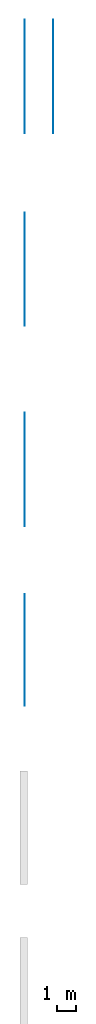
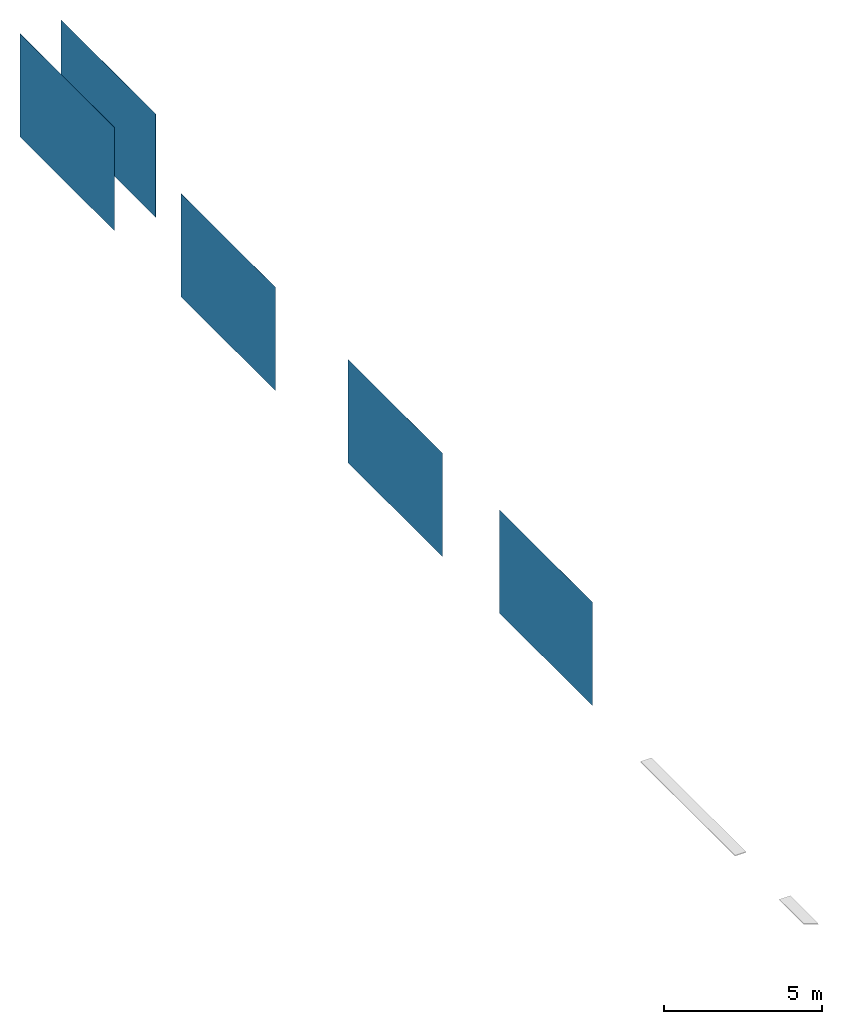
# One storey, part 1 of 2: 5 walls.
"""IFC2X3 building model written with IfcOpenShell, lengths in millimetres."""

from ifc_helpers import new_model, entity, si_unit, converted_unit, derived_unit, direction, frame, frame_2d, origin, place, context, subcontext, project, spatial, rectangle, extrude, material, layer, layer_set, layer_usage, type_object, element, save


model = new_model("IFC2X3")

# Units and contexts
model_context = context("Model", 3, precision=0.01, world=origin(), true_north=direction((6.12303176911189e-17, 1.0)))
context_of_model = context(None, 3, precision=0.01, world=origin(), true_north=direction((6.12303176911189e-17, 1.0)))
body_context = subcontext(model_context, "Body", "Model", "MODEL_VIEW")
ifc_project = project(units=[si_unit("LENGTHUNIT", "METRE", prefix="MILLI"), si_unit("AREAUNIT", "SQUARE_METRE"), si_unit("VOLUMEUNIT", "CUBIC_METRE"), converted_unit("PLANEANGLEUNIT", "DEGREE", entity("IfcRatioMeasure", 0.0174532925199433), si_unit("PLANEANGLEUNIT", "RADIAN"), dimensions=[0, 0, 0, 0, 0, 0, 0]), si_unit("MASSUNIT", "GRAM", prefix="KILO"), si_unit("TIMEUNIT", "SECOND"), si_unit("FREQUENCYUNIT", "HERTZ"), si_unit("THERMODYNAMICTEMPERATUREUNIT", "DEGREE_CELSIUS"), derived_unit("THERMALTRANSMITTANCEUNIT", [(si_unit("MASSUNIT", "GRAM", prefix="KILO"), 1), (si_unit("THERMODYNAMICTEMPERATUREUNIT", "KELVIN"), -1), (si_unit("TIMEUNIT", "SECOND"), -3)]), derived_unit("VOLUMETRICFLOWRATEUNIT", [(si_unit("LENGTHUNIT", "METRE"), 3), (si_unit("TIMEUNIT", "SECOND"), -1)]), si_unit("ELECTRICCURRENTUNIT", "AMPERE"), si_unit("ELECTRICVOLTAGEUNIT", "VOLT"), si_unit("POWERUNIT", "WATT"), si_unit("FORCEUNIT", "NEWTON", prefix="KILO"), si_unit("ILLUMINANCEUNIT", "LUX"), si_unit("LUMINOUSFLUXUNIT", "LUMEN"), si_unit("LUMINOUSINTENSITYUNIT", "CANDELA"), si_unit("PRESSUREUNIT", "PASCAL")], contexts=[model_context, context_of_model])

# Site, building, storey
site_placement = place(None, origin())
site = spatial("IfcSite", under=ifc_project, at=site_placement, Name="Default", CompositionType="ELEMENT")
building_placement = place(site_placement, origin())
building = spatial("IfcBuilding", under=site, at=building_placement, CompositionType="ELEMENT")
storey_placement = place(building_placement, origin())
storey = spatial("IfcBuildingStorey", under=building, at=storey_placement, Name="Livello 1", CompositionType="ELEMENT", Elevation=0.0)

# Walls
ifc_material_1 = material(Name="GASBETON Incollarasa - M5")
ifc_layer_1 = layer(ifc_material_1, 5.0)
ifc_layer_set_1 = layer_set([ifc_layer_1], Name="Muro di base:GASBETON IncollaRasa M5")
ifc_layer_usage_1 = layer_usage(ifc_layer_set_1, "AXIS2", "NEGATIVE", 2.50000000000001)
wall_type_1 = type_object("IfcWallType", Name="Muro di base:GASBETON IncollaRasa M5", PredefinedType="STANDARD", material=ifc_layer_set_1)
wall_1_placement = place(storey_placement, frame((-10117.6956979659, -1657.47203434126, 0.0), z_axis=(0.0, 0.0, 1.0), x_axis=(0.0, -1.0, 0.0)))
element("IfcWallStandardCase", 1, at=wall_1_placement, inside=storey, type_object=wall_type_1, material=ifc_layer_usage_1, Name="Muro di base:GASBETON IncollaRasa M5", ObjectType="Muro di base:GASBETON IncollaRasa M5:1740", context=body_context, shape_type="SweptSolid", body=[
    extrude(rectangle(XDim=6000.0, YDim=4.99999999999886, at=frame_2d((3000.0, 0.0), x_axis=(-1.0, 0.0))), origin(), (0.0, 0.0, 1.0), 4000.0),
])
ifc_material_2 = material(Name="GASBETON Incollarasa - M10")
ifc_layer_2 = layer(ifc_material_2, 5.0)
ifc_layer_set_2 = layer_set([ifc_layer_2], Name="Muro di base:GASBETON IncollaRasa M10")
ifc_layer_usage_2 = layer_usage(ifc_layer_set_2, "AXIS2", "NEGATIVE", 2.50000000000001)
wall_type_2 = type_object("IfcWallType", Name="Muro di base:GASBETON IncollaRasa M10", PredefinedType="STANDARD", material=ifc_layer_set_2)
wall_2_placement = place(storey_placement, frame((-8612.69569796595, -1657.47203434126, 0.0), z_axis=(0.0, 0.0, 1.0), x_axis=(0.0, -1.0, 0.0)))
element("IfcWallStandardCase", 2, at=wall_2_placement, inside=storey, type_object=wall_type_2, material=ifc_layer_usage_2, Name="Muro di base:GASBETON IncollaRasa M10", ObjectType="Muro di base:GASBETON IncollaRasa M10", context=body_context, shape_type="SweptSolid", body=[
    extrude(rectangle(XDim=6000.0, YDim=5.00000000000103, at=frame_2d((3000.0, 0.0), x_axis=(-1.0, 0.0))), origin(), (0.0, 0.0, 1.0), 4000.0),
])
ifc_layer_3 = layer(ifc_material_2, 2.0)
ifc_layer_set_3 = layer_set([ifc_layer_3], Name="Muro di base:GASBETON Multicem")
ifc_layer_usage_3 = layer_usage(ifc_layer_set_3, "AXIS2", "NEGATIVE", 1.0)
wall_type_3 = type_object("IfcWallType", Name="Muro di base:GASBETON Multicem", PredefinedType="STANDARD", material=ifc_layer_set_3)
wall_3_placement = place(storey_placement, frame((-10117.695697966, -11857.4720343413, 0.0), z_axis=(0.0, 0.0, 1.0), x_axis=(0.0, -1.0, 0.0)))
element("IfcWallStandardCase", 3, at=wall_3_placement, inside=storey, type_object=wall_type_3, material=ifc_layer_usage_3, Name="Muro di base:GASBETON Multicem", ObjectType="Muro di base:GASBETON Multicem", context=body_context, shape_type="SweptSolid", body=[
    extrude(rectangle(XDim=6000.0, YDim=1.99999999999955, at=frame_2d((3000.0, 0.0), x_axis=(-1.0, 0.0))), origin(), (0.0, 0.0, 1.0), 4000.0),
])
ifc_material_3 = material(Name="GASBETON Multiraso esterni")
ifc_layer_4 = layer(ifc_material_3, 2.0)
ifc_layer_set_4 = layer_set([ifc_layer_4], Name="Muro di base:GASBETON Multiraso Esterni")
ifc_layer_usage_4 = layer_usage(ifc_layer_set_4, "AXIS2", "NEGATIVE", 1.0)
wall_type_4 = type_object("IfcWallType", Name="Muro di base:GASBETON Multiraso Esterni", PredefinedType="STANDARD", material=ifc_layer_set_4)
wall_4_placement = place(storey_placement, frame((-10117.695697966, -22457.4720343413, 0.0), z_axis=(0.0, 0.0, 1.0), x_axis=(0.0, -1.0, 0.0)))
element("IfcWallStandardCase", 4, at=wall_4_placement, inside=storey, type_object=wall_type_4, material=ifc_layer_usage_4, Name="Muro di base:GASBETON Multiraso Esterni", ObjectType="Muro di base:GASBETON Multiraso Esterni", context=body_context, shape_type="SweptSolid", body=[
    extrude(rectangle(XDim=6000.0, YDim=1.99999999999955, at=frame_2d((3000.0, 0.0), x_axis=(-1.0, 0.0))), origin(), (0.0, 0.0, 1.0), 4000.0),
])
ifc_material_4 = material(Name="GASBETON Multiraso interni")
ifc_layer_5 = layer(ifc_material_4, 2.0)
ifc_layer_set_5 = layer_set([ifc_layer_5], Name="Muro di base:GASBETON Multiraso Interni")
ifc_layer_usage_5 = layer_usage(ifc_layer_set_5, "AXIS2", "POSITIVE", -1.0)
wall_type_5 = type_object("IfcWallType", Name="Muro di base:GASBETON Multiraso Interni", PredefinedType="STANDARD", material=ifc_layer_set_5)
wall_5_placement = place(storey_placement, frame((-10117.695697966, -32070.6908326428, 0.0), z_axis=(0.0, 0.0, 1.0), x_axis=(0.0, -1.0, 0.0)))
element("IfcWallStandardCase", 5, at=wall_5_placement, inside=storey, type_object=wall_type_5, material=ifc_layer_usage_5, Name="Muro di base:GASBETON Multiraso Interni", ObjectType="Muro di base:GASBETON Multiraso Interni", context=body_context, shape_type="SweptSolid", body=[
    extrude(rectangle(XDim=5900.0, YDim=1.99999999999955, at=frame_2d((2950.0, 4.60187443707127e-13), x_axis=(-1.0, 0.0))), origin(), (0.0, 0.0, 1.0), 4000.0),
])

save(model, "model.ifc")
